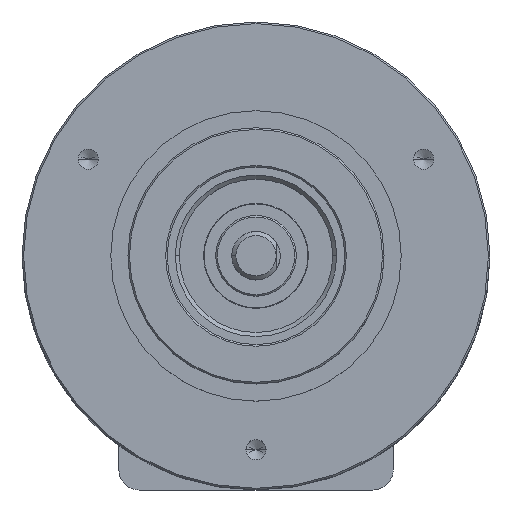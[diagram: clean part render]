
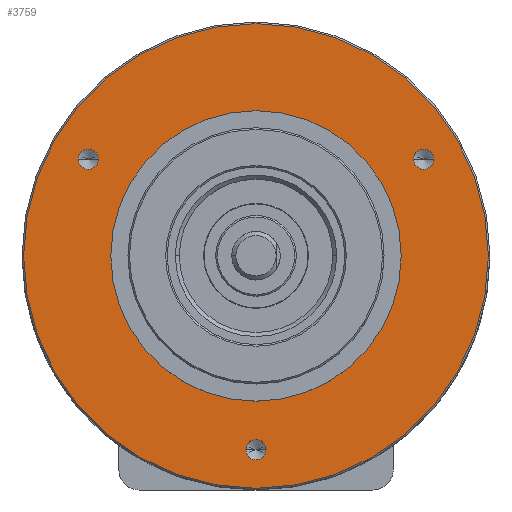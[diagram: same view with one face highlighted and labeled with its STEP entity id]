
A CAD part, top view. The second image highlights one B-rep face of the part: STEP entity #3759.
In plain terms, the highlighted planar face has unit normal (0, 0, 1).
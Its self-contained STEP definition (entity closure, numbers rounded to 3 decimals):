
#51 = CARTESIAN_POINT ( 'NONE',  ( -1.25, -24., 15.5 ) ) ;
#169 = VERTEX_POINT ( 'NONE', #51 ) ;
#190 = EDGE_LOOP ( 'NONE', ( #12300, #11376 ) ) ;
#532 = VERTEX_POINT ( 'NONE', #14610 ) ;
#603 = ORIENTED_EDGE ( 'NONE', *, *, #13406, .T. ) ;
#741 = CARTESIAN_POINT ( 'NONE',  ( 18., 0., 15.5 ) ) ;
#1136 = CARTESIAN_POINT ( 'NONE',  ( -20.785, 12., 15.5 ) ) ;
#1175 = VERTEX_POINT ( 'NONE', #13444 ) ;
#1243 = EDGE_LOOP ( 'NONE', ( #15334, #10453 ) ) ;
#1592 = FACE_BOUND ( 'NONE', #12299, .T. ) ;
#2154 = VERTEX_POINT ( 'NONE', #4928 ) ;
#2199 = DIRECTION ( 'NONE',  ( -1., 0., 0. ) ) ;
#2265 = CARTESIAN_POINT ( 'NONE',  ( 0., -24., 15.5 ) ) ;
#2326 = CARTESIAN_POINT ( 'NONE',  ( -20.785, 12., 15.5 ) ) ;
#2768 = FACE_BOUND ( 'NONE', #190, .T. ) ;
#2888 = CIRCLE ( 'NONE', #15148, 1.25 ) ;
#2929 = DIRECTION ( 'NONE',  ( 0., 0., 1. ) ) ;
#3127 = DIRECTION ( 'NONE',  ( 0., 0., -1. ) ) ;
#3473 = VERTEX_POINT ( 'NONE', #7118 ) ;
#3530 = DIRECTION ( 'NONE',  ( 0., 0., 1. ) ) ;
#3759 = ADVANCED_FACE ( 'NONE', ( #1592, #8320, #13750, #14016, #2768 ), #5726, .F. ) ;
#4591 = CIRCLE ( 'NONE', #5448, 1.25 ) ;
#4880 = CIRCLE ( 'NONE', #11969, 1.25 ) ;
#4928 = CARTESIAN_POINT ( 'NONE',  ( -28.8, 0., 15.5 ) ) ;
#5043 = CIRCLE ( 'NONE', #11857, 28.8 ) ;
#5226 = CIRCLE ( 'NONE', #8078, 18. ) ;
#5448 = AXIS2_PLACEMENT_3D ( 'NONE', #1136, #10688, #13472 ) ;
#5726 = PLANE ( 'NONE',  #9035 ) ;
#5946 = EDGE_CURVE ( 'NONE', #8397, #169, #9071, .T. ) ;
#6578 = DIRECTION ( 'NONE',  ( -1., 0., 0. ) ) ;
#6634 = DIRECTION ( 'NONE',  ( 0., 0., 1. ) ) ;
#6864 = DIRECTION ( 'NONE',  ( -1., 0., 0. ) ) ;
#6984 = DIRECTION ( 'NONE',  ( 1., 0., 0. ) ) ;
#7118 = CARTESIAN_POINT ( 'NONE',  ( 22.035, 12., 15.5 ) ) ;
#7153 = DIRECTION ( 'NONE',  ( 1., 0., 0. ) ) ;
#7429 = CARTESIAN_POINT ( 'NONE',  ( 28.8, 0., 15.5 ) ) ;
#7509 = AXIS2_PLACEMENT_3D ( 'NONE', #8985, #15777, #2199 ) ;
#7954 = AXIS2_PLACEMENT_3D ( 'NONE', #13647, #2929, #15160 ) ;
#8078 = AXIS2_PLACEMENT_3D ( 'NONE', #10760, #8199, #6864 ) ;
#8199 = DIRECTION ( 'NONE',  ( 0., 0., 1. ) ) ;
#8235 = EDGE_CURVE ( 'NONE', #532, #15993, #4880, .T. ) ;
#8320 = FACE_BOUND ( 'NONE', #1243, .T. ) ;
#8397 = VERTEX_POINT ( 'NONE', #10711 ) ;
#8445 = EDGE_LOOP ( 'NONE', ( #15088, #14997 ) ) ;
#8505 = EDGE_CURVE ( 'NONE', #3473, #12656, #2888, .T. ) ;
#8985 = CARTESIAN_POINT ( 'NONE',  ( 0., 0., 15.5 ) ) ;
#9035 = AXIS2_PLACEMENT_3D ( 'NONE', #15362, #3127, #6984 ) ;
#9071 = CIRCLE ( 'NONE', #7954, 1.25 ) ;
#9087 = AXIS2_PLACEMENT_3D ( 'NONE', #13921, #16599, #7153 ) ;
#9424 = EDGE_CURVE ( 'NONE', #15993, #532, #4591, .T. ) ;
#9909 = CARTESIAN_POINT ( 'NONE',  ( 20.785, 12., 15.5 ) ) ;
#9946 = DIRECTION ( 'NONE',  ( 0., 0., 1. ) ) ;
#10078 = DIRECTION ( 'NONE',  ( -1., 0., 0. ) ) ;
#10268 = DIRECTION ( 'NONE',  ( -1., 0., 0. ) ) ;
#10453 = ORIENTED_EDGE ( 'NONE', *, *, #8235, .F. ) ;
#10688 = DIRECTION ( 'NONE',  ( 0., 0., 1. ) ) ;
#10711 = CARTESIAN_POINT ( 'NONE',  ( 1.25, -24., 15.5 ) ) ;
#10760 = CARTESIAN_POINT ( 'NONE',  ( 0., 0., 15.5 ) ) ;
#10806 = EDGE_CURVE ( 'NONE', #14035, #1175, #16620, .T. ) ;
#10851 = EDGE_CURVE ( 'NONE', #1175, #14035, #5226, .T. ) ;
#11143 = ORIENTED_EDGE ( 'NONE', *, *, #5946, .F. ) ;
#11376 = ORIENTED_EDGE ( 'NONE', *, *, #8505, .F. ) ;
#11766 = VERTEX_POINT ( 'NONE', #7429 ) ;
#11857 = AXIS2_PLACEMENT_3D ( 'NONE', #13883, #9946, #14059 ) ;
#11969 = AXIS2_PLACEMENT_3D ( 'NONE', #2326, #6634, #10268 ) ;
#12299 = EDGE_LOOP ( 'NONE', ( #12988, #11143 ) ) ;
#12300 = ORIENTED_EDGE ( 'NONE', *, *, #14105, .F. ) ;
#12656 = VERTEX_POINT ( 'NONE', #14416 ) ;
#12669 = ORIENTED_EDGE ( 'NONE', *, *, #17487, .T. ) ;
#12988 = ORIENTED_EDGE ( 'NONE', *, *, #13986, .F. ) ;
#13074 = CIRCLE ( 'NONE', #9087, 28.8 ) ;
#13249 = DIRECTION ( 'NONE',  ( 0., 0., 1. ) ) ;
#13406 = EDGE_CURVE ( 'NONE', #11766, #2154, #13074, .T. ) ;
#13444 = CARTESIAN_POINT ( 'NONE',  ( -18., 0., 15.5 ) ) ;
#13472 = DIRECTION ( 'NONE',  ( -1., 0., 0. ) ) ;
#13647 = CARTESIAN_POINT ( 'NONE',  ( 0., -24., 15.5 ) ) ;
#13750 = FACE_OUTER_BOUND ( 'NONE', #14971, .T. ) ;
#13883 = CARTESIAN_POINT ( 'NONE',  ( 0., 0., 15.5 ) ) ;
#13921 = CARTESIAN_POINT ( 'NONE',  ( 0., 0., 15.5 ) ) ;
#13986 = EDGE_CURVE ( 'NONE', #169, #8397, #15552, .T. ) ;
#14016 = FACE_BOUND ( 'NONE', #8445, .T. ) ;
#14035 = VERTEX_POINT ( 'NONE', #741 ) ;
#14059 = DIRECTION ( 'NONE',  ( 1., 0., 0. ) ) ;
#14105 = EDGE_CURVE ( 'NONE', #12656, #3473, #16982, .T. ) ;
#14413 = AXIS2_PLACEMENT_3D ( 'NONE', #2265, #3530, #15844 ) ;
#14416 = CARTESIAN_POINT ( 'NONE',  ( 19.535, 12., 15.5 ) ) ;
#14610 = CARTESIAN_POINT ( 'NONE',  ( -19.535, 12., 15.5 ) ) ;
#14777 = CARTESIAN_POINT ( 'NONE',  ( 20.785, 12., 15.5 ) ) ;
#14971 = EDGE_LOOP ( 'NONE', ( #603, #12669 ) ) ;
#14997 = ORIENTED_EDGE ( 'NONE', *, *, #10806, .F. ) ;
#15088 = ORIENTED_EDGE ( 'NONE', *, *, #10851, .F. ) ;
#15148 = AXIS2_PLACEMENT_3D ( 'NONE', #9909, #15278, #10078 ) ;
#15160 = DIRECTION ( 'NONE',  ( -1., 0., 0. ) ) ;
#15278 = DIRECTION ( 'NONE',  ( 0., 0., 1. ) ) ;
#15334 = ORIENTED_EDGE ( 'NONE', *, *, #9424, .F. ) ;
#15362 = CARTESIAN_POINT ( 'NONE',  ( 0., -18., 15.5 ) ) ;
#15552 = CIRCLE ( 'NONE', #14413, 1.25 ) ;
#15777 = DIRECTION ( 'NONE',  ( 0., 0., 1. ) ) ;
#15844 = DIRECTION ( 'NONE',  ( -1., 0., 0. ) ) ;
#15993 = VERTEX_POINT ( 'NONE', #17179 ) ;
#16599 = DIRECTION ( 'NONE',  ( 0., 0., 1. ) ) ;
#16620 = CIRCLE ( 'NONE', #7509, 18. ) ;
#16982 = CIRCLE ( 'NONE', #17559, 1.25 ) ;
#17179 = CARTESIAN_POINT ( 'NONE',  ( -22.035, 12., 15.5 ) ) ;
#17487 = EDGE_CURVE ( 'NONE', #2154, #11766, #5043, .T. ) ;
#17559 = AXIS2_PLACEMENT_3D ( 'NONE', #14777, #13249, #6578 ) ;
